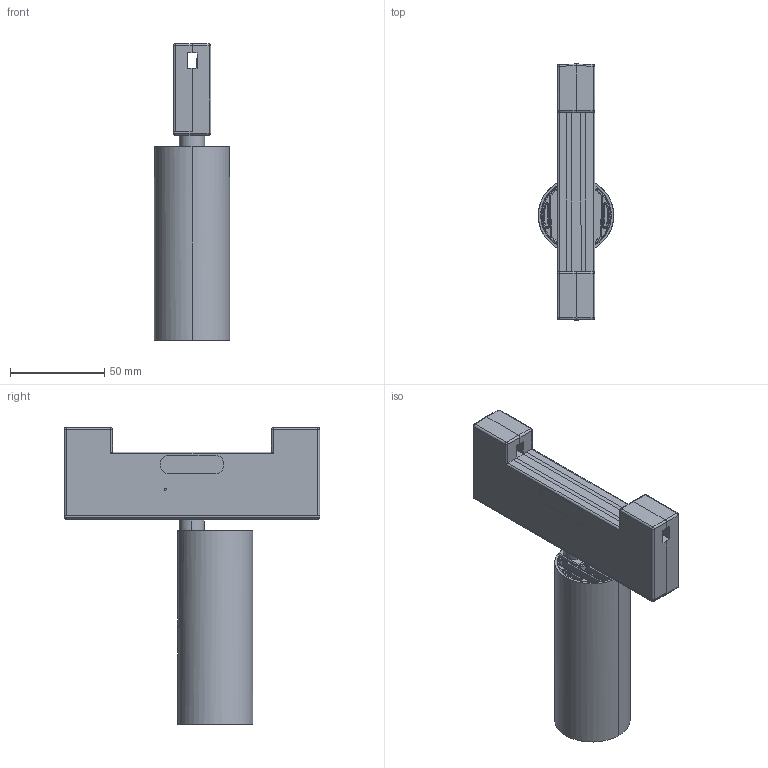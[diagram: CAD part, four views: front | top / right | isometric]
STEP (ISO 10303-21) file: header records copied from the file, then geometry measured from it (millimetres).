
FILE_DESCRIPTION(/* description */ (''),/* implementation_level */ '2;1');
FILE_NAME(/* name */ 'Funivia - Vector 40',/* time_stamp */ '2022-08-29T16:52:08+02:00',/* author */ (''),/* organization */ (''),/* preprocessor_version */ 'ST-DEVELOPER v16.5',/* originating_system */ 'Rhino 7.17',/* authorisation */ '');
FILE_SCHEMA (('AUTOMOTIVE_DESIGN'));
Length unit declared in the file: millimetre
Products named in the file (1): Document
Bounding box: 40 x 136 x 157.74 mm (x, y, z)
Volume: 27301.3 mm3; surface area: 74609 mm2
Topology: 2 solids, 7 shells, 380 faces, 962 edges, 574 vertices
Faces by surface type: bspline 171, cylinder 105, plane 104
Entity records: 21970 total; most frequent: CARTESIAN_POINT 16215, ORIENTED_EDGE 1856, EDGE_CURVE 951, VERTEX_POINT 570, B_SPLINE_CURVE_WITH_KNOTS 498, EDGE_LOOP 401, ADVANCED_FACE 380, FACE_OUTER_BOUND 380
